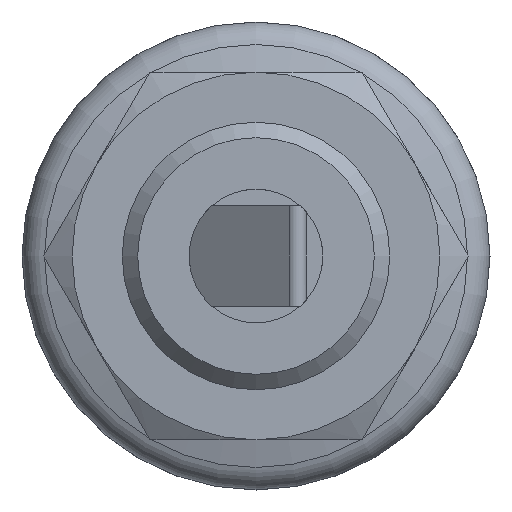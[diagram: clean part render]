
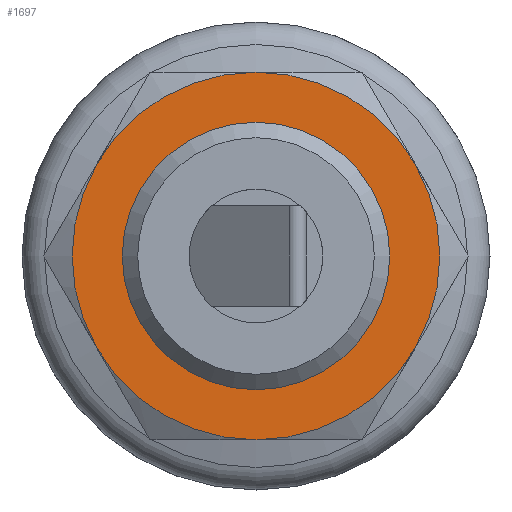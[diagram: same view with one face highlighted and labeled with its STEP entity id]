
A CAD part, front view. The second image highlights one B-rep face of the part: STEP entity #1697.
In plain terms, the highlighted planar face has unit normal (0, -1, 0).
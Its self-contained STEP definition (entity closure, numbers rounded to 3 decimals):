
#123=CIRCLE('',#1801,11.);
#124=CIRCLE('',#1803,11.);
#125=CIRCLE('',#1805,11.);
#126=CIRCLE('',#1807,11.);
#127=CIRCLE('',#1809,11.);
#128=CIRCLE('',#1811,11.);
#129=CIRCLE('',#1813,7.);
#226=ORIENTED_EDGE('',*,*,#515,.F.);
#227=ORIENTED_EDGE('',*,*,#510,.T.);
#228=ORIENTED_EDGE('',*,*,#508,.T.);
#229=ORIENTED_EDGE('',*,*,#504,.T.);
#230=ORIENTED_EDGE('',*,*,#501,.T.);
#231=ORIENTED_EDGE('',*,*,#499,.T.);
#232=ORIENTED_EDGE('',*,*,#513,.T.);
#499=EDGE_CURVE('',#640,#641,#123,.T.);
#501=EDGE_CURVE('',#643,#640,#124,.T.);
#504=EDGE_CURVE('',#645,#643,#125,.T.);
#508=EDGE_CURVE('',#647,#645,#126,.T.);
#510=EDGE_CURVE('',#649,#647,#127,.T.);
#513=EDGE_CURVE('',#641,#649,#128,.T.);
#515=EDGE_CURVE('',#651,#651,#129,.T.);
#640=VERTEX_POINT('',#2375);
#641=VERTEX_POINT('',#2380);
#643=VERTEX_POINT('',#2389);
#645=VERTEX_POINT('',#2401);
#647=VERTEX_POINT('',#2412);
#649=VERTEX_POINT('',#2425);
#651=VERTEX_POINT('',#2443);
#832=EDGE_LOOP('',(#226));
#833=EDGE_LOOP('',(#227,#228,#229,#230,#231,#232));
#954=FACE_BOUND('',#832,.T.);
#955=FACE_BOUND('',#833,.T.);
#1063=PLANE('',#1812);
#1697=ADVANCED_FACE('',(#954,#955),#1063,.F.);
#1801=AXIS2_PLACEMENT_3D('',#2381,#1986,#1987);
#1803=AXIS2_PLACEMENT_3D('',#2388,#1990,#1991);
#1805=AXIS2_PLACEMENT_3D('',#2400,#1994,#1995);
#1807=AXIS2_PLACEMENT_3D('',#2417,#1998,#1999);
#1809=AXIS2_PLACEMENT_3D('',#2424,#2002,#2003);
#1811=AXIS2_PLACEMENT_3D('',#2436,#2006,#2007);
#1812=AXIS2_PLACEMENT_3D('',#2441,#2008,#2009);
#1813=AXIS2_PLACEMENT_3D('',#2442,#2010,#2011);
#1986=DIRECTION('',(0.,-1.,0.));
#1987=DIRECTION('',(0.,0.,-1.));
#1990=DIRECTION('',(0.,-1.,0.));
#1991=DIRECTION('',(0.,0.,-1.));
#1994=DIRECTION('',(0.,-1.,0.));
#1995=DIRECTION('',(0.,0.,-1.));
#1998=DIRECTION('',(0.,-1.,0.));
#1999=DIRECTION('',(0.,0.,-1.));
#2002=DIRECTION('',(0.,-1.,0.));
#2003=DIRECTION('',(0.,0.,-1.));
#2006=DIRECTION('',(0.,-1.,0.));
#2007=DIRECTION('',(0.,0.,-1.));
#2008=DIRECTION('',(0.,1.,0.));
#2009=DIRECTION('',(0.,0.,1.));
#2010=DIRECTION('',(0.,-1.,0.));
#2011=DIRECTION('',(0.,0.,-1.));
#2375=CARTESIAN_POINT('',(-9.526,24.,5.5));
#2380=CARTESIAN_POINT('',(-9.526,24.,-5.5));
#2381=CARTESIAN_POINT('',(0.,24.,0.));
#2388=CARTESIAN_POINT('',(0.,24.,0.));
#2389=CARTESIAN_POINT('',(0.,24.,11.));
#2400=CARTESIAN_POINT('',(0.,24.,0.));
#2401=CARTESIAN_POINT('',(9.526,24.,5.5));
#2412=CARTESIAN_POINT('',(9.526,24.,-5.5));
#2417=CARTESIAN_POINT('',(0.,24.,0.));
#2424=CARTESIAN_POINT('',(0.,24.,0.));
#2425=CARTESIAN_POINT('',(0.,24.,-11.));
#2436=CARTESIAN_POINT('',(0.,24.,0.));
#2441=CARTESIAN_POINT('',(11.,24.,0.));
#2442=CARTESIAN_POINT('',(0.,24.,0.));
#2443=CARTESIAN_POINT('',(0.,24.,-7.));
